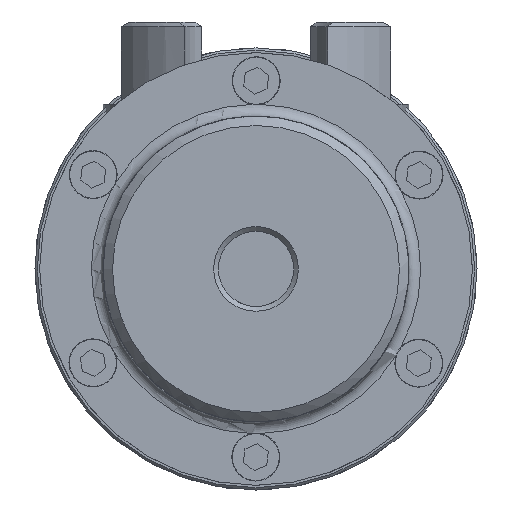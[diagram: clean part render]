
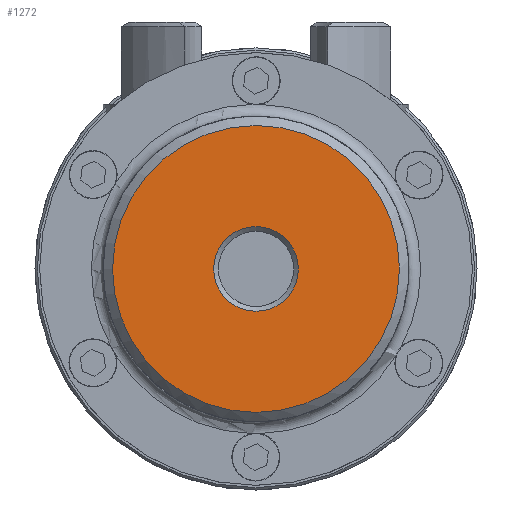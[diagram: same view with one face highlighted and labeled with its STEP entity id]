
A CAD part, left-side view. The second image highlights one B-rep face of the part: STEP entity #1272.
In plain terms, the highlighted planar face has unit normal (-1, 0, 0) as drawn and (0, 0, -1) by its records, which use the part's own axes.
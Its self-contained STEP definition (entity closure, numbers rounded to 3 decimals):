
#1272 = ADVANCED_FACE( '', ( #2419, #2420 ), #2421, .T. );
#2419 = FACE_OUTER_BOUND( '', #3311, .T. );
#2420 = FACE_BOUND( '', #3312, .T. );
#2421 = PLANE( '', #3313 );
#3311 = EDGE_LOOP( '', ( #5217 ) );
#3312 = EDGE_LOOP( '', ( #5218 ) );
#3313 = AXIS2_PLACEMENT_3D( '', #5219, #5220, #5221 );
#5217 = ORIENTED_EDGE( '', *, *, #6431, .T. );
#5218 = ORIENTED_EDGE( '', *, *, #6432, .T. );
#5219 = CARTESIAN_POINT( '', ( 0., 0., 0. ) );
#5220 = DIRECTION( '', ( 0., 0., -1. ) );
#5221 = DIRECTION( '', ( 0., -1., 0. ) );
#6431 = EDGE_CURVE( '', #7619, #7619, #7620, .T. );
#6432 = EDGE_CURVE( '', #7621, #7621, #7622, .F. );
#7619 = VERTEX_POINT( '', #9514 );
#7620 = CIRCLE( '', #9515, 30.5 );
#7621 = VERTEX_POINT( '', #9516 );
#7622 = CIRCLE( '', #9517, 9. );
#9514 = CARTESIAN_POINT( '', ( -30.5, 0., 0. ) );
#9515 = AXIS2_PLACEMENT_3D( '', #10561, #10562, #10563 );
#9516 = CARTESIAN_POINT( '', ( -9., 0., 0. ) );
#9517 = AXIS2_PLACEMENT_3D( '', #10564, #10565, #10566 );
#10561 = CARTESIAN_POINT( '', ( 0., 0., 0. ) );
#10562 = DIRECTION( '', ( 0., 0., -1. ) );
#10563 = DIRECTION( '', ( -1., 0., 0. ) );
#10564 = CARTESIAN_POINT( '', ( 0., 0., 0. ) );
#10565 = DIRECTION( '', ( 0., 0., -1. ) );
#10566 = DIRECTION( '', ( -1., 0., 0. ) );
